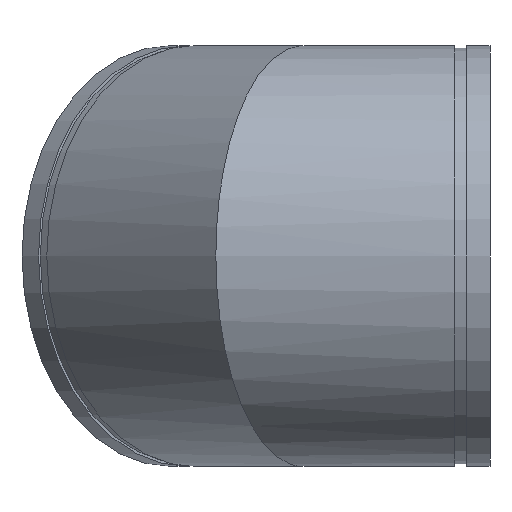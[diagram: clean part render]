
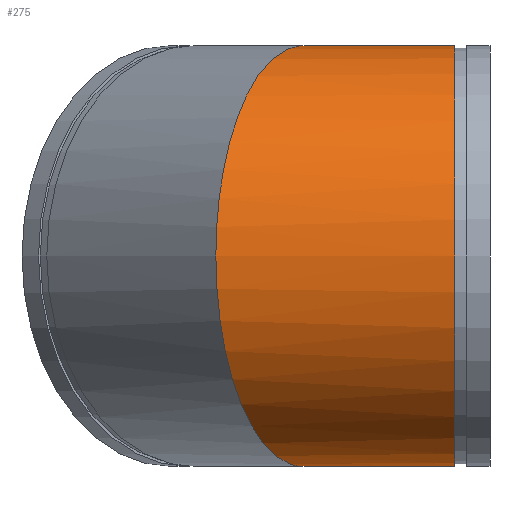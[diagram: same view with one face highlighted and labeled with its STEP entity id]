
A CAD part, left-side view. The second image highlights one B-rep face of the part: STEP entity #275.
In plain terms, the highlighted cylindrical face has radius 228.6 mm (diameter 457.2 mm), a full revolution.
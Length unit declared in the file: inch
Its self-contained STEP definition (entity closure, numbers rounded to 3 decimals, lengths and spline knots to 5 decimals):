
#48=ELLIPSE('',#329,9.74153,9.);
#49=ELLIPSE('',#330,9.74153,9.);
#50=ELLIPSE('',#331,9.74153,9.);
#73=FACE_OUTER_BOUND('',#91,.T.);
#91=EDGE_LOOP('',(#225,#226,#227,#228,#229,#230));
#103=LINE('',#513,#111);
#111=VECTOR('',#416,9.);
#117=CIRCLE('',#305,9.);
#133=VERTEX_POINT('',#468);
#148=VERTEX_POINT('',#512);
#149=VERTEX_POINT('',#514);
#150=VERTEX_POINT('',#516);
#156=EDGE_CURVE('',#133,#133,#117,.T.);
#176=EDGE_CURVE('',#133,#148,#103,.T.);
#177=EDGE_CURVE('',#148,#149,#48,.T.);
#178=EDGE_CURVE('',#150,#149,#49,.T.);
#179=EDGE_CURVE('',#150,#148,#50,.T.);
#225=ORIENTED_EDGE('',*,*,#156,.T.);
#226=ORIENTED_EDGE('',*,*,#176,.T.);
#227=ORIENTED_EDGE('',*,*,#177,.T.);
#228=ORIENTED_EDGE('',*,*,#178,.F.);
#229=ORIENTED_EDGE('',*,*,#179,.T.);
#230=ORIENTED_EDGE('',*,*,#176,.F.);
#247=CYLINDRICAL_SURFACE('',#328,9.);
#275=ADVANCED_FACE('',(#73),#247,.T.);
#305=AXIS2_PLACEMENT_3D('',#469,#363,#364);
#328=AXIS2_PLACEMENT_3D('',#511,#414,#415);
#329=AXIS2_PLACEMENT_3D('',#515,#417,#418);
#330=AXIS2_PLACEMENT_3D('',#517,#419,#420);
#331=AXIS2_PLACEMENT_3D('',#518,#421,#422);
#363=DIRECTION('center_axis',(0.,1.,0.));
#364=DIRECTION('ref_axis',(1.,0.,0.));
#414=DIRECTION('center_axis',(0.,-1.,0.));
#415=DIRECTION('ref_axis',(1.,0.,0.));
#416=DIRECTION('',(0.,1.,0.));
#417=DIRECTION('center_axis',(-0.383,-0.924,0.));
#418=DIRECTION('ref_axis',(0.924,-0.383,0.));
#419=DIRECTION('center_axis',(0.383,0.924,0.));
#420=DIRECTION('ref_axis',(0.924,-0.383,0.));
#421=DIRECTION('center_axis',(-0.383,-0.924,0.));
#422=DIRECTION('ref_axis',(0.924,-0.383,0.));
#468=CARTESIAN_POINT('',(-9.,-6.5,0.));
#469=CARTESIAN_POINT('Origin',(0.,-6.5,0.));
#511=CARTESIAN_POINT('Origin',(0.,0.,0.));
#512=CARTESIAN_POINT('',(-9.,3.72792,0.));
#513=CARTESIAN_POINT('',(-9.,0.,0.));
#514=CARTESIAN_POINT('',(0.,0.,-9.));
#515=CARTESIAN_POINT('Origin',(0.,0.,0.));
#516=CARTESIAN_POINT('',(0.,0.,9.));
#517=CARTESIAN_POINT('Origin',(0.,0.,0.));
#518=CARTESIAN_POINT('Origin',(0.,0.,0.));
